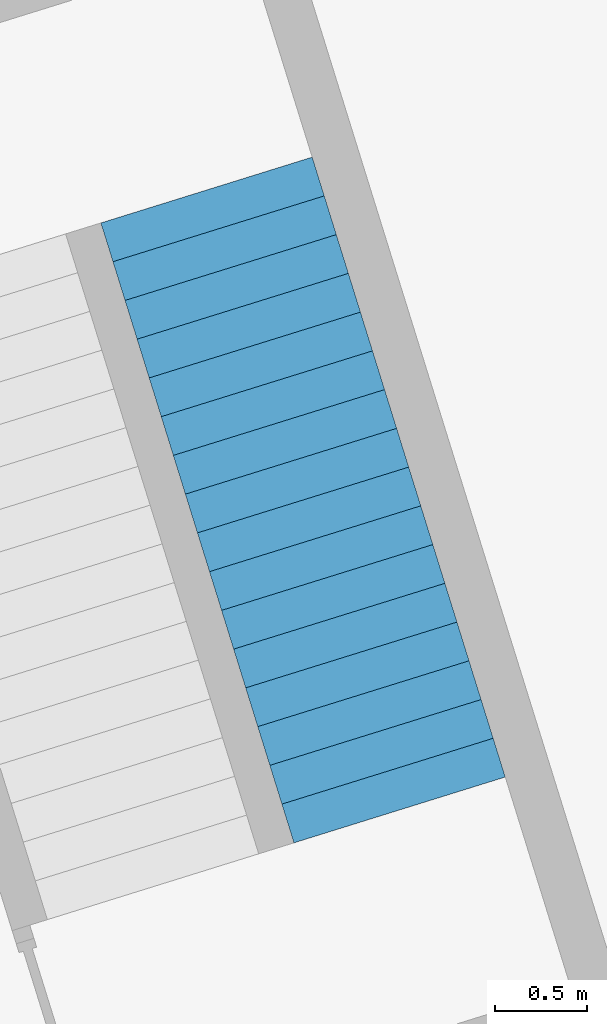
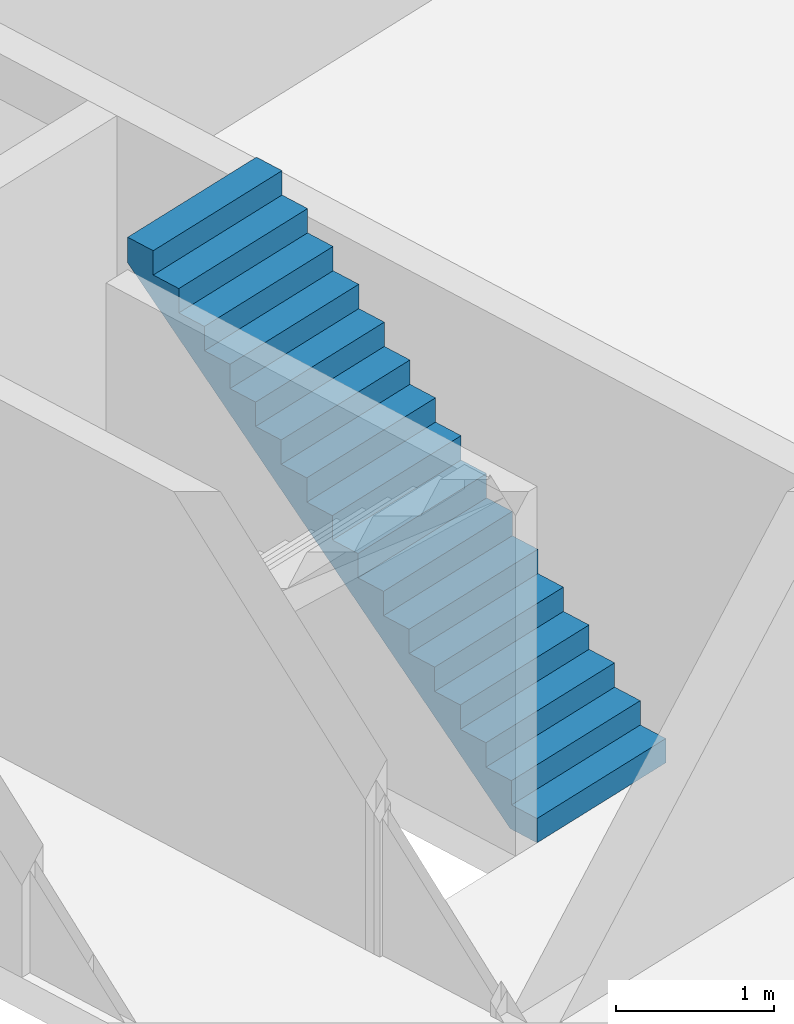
# One storey, part 4 of 4: 1 stair flight, 1 element without a shape of its own.
"""IFC4 building model written with IfcOpenShell, lengths in metres."""

import ifcopenshell
import ifcopenshell.guid

model = None  # the IFC model being written
_history = None  # IfcOwnerHistory: only IFC2X3 demands one
_inside = {}  # id of a spatial element -> (the spatial element, [elements in it])
_under = {}  # id of a project, library or spatial element -> (it, [spatial elements below it])
_declared = {}  # id of a project -> (the project, [libraries it declares])
_typed = {}  # id of a type object -> (the type object, [elements of that type])
_made_of = {}  # id of a material, layer set ... -> (it, [elements and type objects made of it])


def new_model(schema):
    """Start an empty IFC model of exactly this schema.

    Asked for "IFC4X3", IfcOpenShell would pick the latest addendum, in which some entities
    have other attributes; the version numbers below select the first issue.
    IFC2X3 requires an IfcOwnerHistory on every rooted entity: one is made here for all.
    """
    global model, _history
    if schema == "IFC4X3":
        model = ifcopenshell.file(schema_version=(4, 3, 0, 0))
    else:
        model = ifcopenshell.file(schema=schema)
    _inside.clear()
    _under.clear()
    _declared.clear()
    _typed.clear()
    _made_of.clear()
    _history = None
    if model.schema == "IFC2X3":
        org = make("IfcOrganization", Name="unknown")
        user = make(
            "IfcPersonAndOrganization",
            ThePerson=make("IfcPerson", FamilyName="unknown"),
            TheOrganization=org,
        )
        app = make(
            "IfcApplication",
            ApplicationDeveloper=org,
            Version="unknown",
            ApplicationFullName="unknown",
            ApplicationIdentifier="unknown",
        )
        _history = make(
            "IfcOwnerHistory",
            OwningUser=user,
            OwningApplication=app,
            ChangeAction="ADDED",
            CreationDate=0,
        )
    return model


def make(cls, **values):
    """One entity of the class cls with the attributes given. An attribute that is None is left unset."""
    return model.create_entity(
        cls, **{name: value for name, value in values.items() if value is not None}
    )


def entity(cls, *values):
    """Any entity or typed value of the class cls, its attributes in the order of the schema. None: left unset."""
    e = model.create_entity(cls)
    for i, value in enumerate(values):
        if value is not None:
            e[i] = value
    return e


def rooted(cls, **values):
    """An entity with a GlobalId (a new one), such as an element, a storey or a relation."""
    return make(cls, GlobalId=ifcopenshell.guid.new(), OwnerHistory=_history, **values)


def si_unit(unit_type, name, prefix=None):
    """IfcSIUnit, for example si_unit("LENGTHUNIT", "METRE", prefix="MILLI")."""
    return make("IfcSIUnit", UnitType=unit_type, Prefix=prefix, Name=name)


def converted_unit(unit_type, name, factor, base, dimensions=None, offset=None):
    """IfcConversionBasedUnit, such as the inch: factor (a typed value) times the base unit."""
    return make(
        "IfcConversionBasedUnit"
        if offset is None
        else "IfcConversionBasedUnitWithOffset",
        ConversionOffset=offset,
        Dimensions=None
        if dimensions is None
        else entity("IfcDimensionalExponents", *dimensions),
        UnitType=unit_type,
        Name=name,
        ConversionFactor=make(
            "IfcMeasureWithUnit", ValueComponent=factor, UnitComponent=base
        ),
    )


def assignment(units):
    """IfcUnitAssignment: the units of a project."""
    return None if units is None else make("IfcUnitAssignment", Units=units)


def point(xyz):
    """IfcCartesianPoint."""
    return None if xyz is None else make("IfcCartesianPoint", Coordinates=xyz)


def direction(xyz):
    """IfcDirection."""
    return None if xyz is None else make("IfcDirection", DirectionRatios=xyz)


def frame(location, z_axis=None, x_axis=None):
    """IfcAxis2Placement3D, a coordinate frame: its origin and axes. An axis left out is left unset."""
    return make(
        "IfcAxis2Placement3D",
        Location=point(location),
        Axis=direction(z_axis),
        RefDirection=direction(x_axis),
    )


def origin():
    """The frame at (0, 0, 0) with its axes left unset."""
    return frame((0.0, 0.0, 0.0))


def place(relative_to, where):
    """IfcLocalPlacement: puts the frame where relative to a parent placement (None: the world)."""
    return make(
        "IfcLocalPlacement", PlacementRelTo=relative_to, RelativePlacement=where
    )


def context(
    kind, dimensions, precision=None, world=None, true_north=None, identifier=None
):
    """IfcGeometricRepresentationContext, for example the 3D "Model" context."""
    return make(
        "IfcGeometricRepresentationContext",
        ContextIdentifier=identifier,
        ContextType=kind,
        CoordinateSpaceDimension=dimensions,
        Precision=precision,
        WorldCoordinateSystem=world,
        TrueNorth=true_north,
    )


def subcontext(parent, identifier, kind, view, scale=None):
    """IfcGeometricRepresentationSubContext, for example "Body" below "Model"."""
    return make(
        "IfcGeometricRepresentationSubContext",
        ContextIdentifier=identifier,
        ContextType=kind,
        ParentContext=parent,
        TargetScale=scale,
        TargetView=view,
    )


def project(units=None, contexts=None):
    """IfcProject with its units and contexts."""
    return rooted(
        "IfcProject",
        Name="project",
        RepresentationContexts=contexts,
        UnitsInContext=assignment(units),
    )


def spatial(cls, under=None, at=None, **own):
    """A site, building, storey or space (cls), placed at a placement, below another one or the project."""
    s = rooted(cls, ObjectPlacement=at, **own)
    if under is not None:
        _under.setdefault(under.id(), (under, []))[1].append(s)
    return s


def point_list(points):
    """IfcCartesianPointList2D or 3D."""
    cls = (
        "IfcCartesianPointList2D" if len(points[0]) == 2 else "IfcCartesianPointList3D"
    )
    return make(cls, CoordList=points)


def polygons(points, faces, closed=None, point_numbers=None):
    """IfcPolygonalFaceSet: a face is its outer loop, then its inner loops; points numbered from 1."""
    made = []
    for loops in faces:
        if len(loops) == 1:
            made.append(make("IfcIndexedPolygonalFace", CoordIndex=loops[0]))
        else:
            made.append(
                make(
                    "IfcIndexedPolygonalFaceWithVoids",
                    CoordIndex=loops[0],
                    InnerCoordIndices=loops[1:],
                )
            )
    return make(
        "IfcPolygonalFaceSet",
        Coordinates=point_list(points),
        Closed=closed,
        Faces=made,
        PnIndex=point_numbers,
    )


def shape(context_of_items, identifier, shape_type, items):
    """IfcShapeRepresentation: the items that make up one representation, for example the "Body"."""
    return make(
        "IfcShapeRepresentation",
        ContextOfItems=context_of_items,
        RepresentationIdentifier=identifier,
        RepresentationType=shape_type,
        Items=items,
    )


def material(Name=None, Category=None):
    """IfcMaterial."""
    return make("IfcMaterial", Name=Name, Category=Category)


def made_of(thing, what):
    """Note that an element or type object is made of a material, layer set ...; save() writes the relation."""
    if what is not None:
        _made_of.setdefault(what.id(), (what, []))[1].append(thing)
    return thing


def type_object(cls, material=None, **own):
    """A type object (cls), such as IfcWallType, which elements share."""
    return made_of(rooted(cls, **own), material)


def element(
    cls,
    number,
    at=None,
    inside=None,
    cuts=None,
    type_object=None,
    material=None,
    context=None,
    identifier="Body",
    shape_type=None,
    held_by="IfcProductDefinitionShape",
    body=None,
    shapes=None,
    **own,
):
    """One element of the class cls, such as IfcWall. Its Tag is "e" and its number.

    at: its placement. inside: the storey or other place that contains it. cuts: it is an
    opening in that element (IfcRelVoidsElement). A single representation is given by context,
    identifier, shape_type and body (its items); several are given by shapes. held_by: the class
    of the entity that holds the representations. save() writes the other relations.
    """
    e = rooted(cls, Tag="e%d" % number, ObjectPlacement=at, **own)
    if body is not None:
        shapes = [shape(context, identifier, shape_type, body)]
    if shapes is not None:
        e.Representation = make(held_by, Representations=shapes)
    if inside is not None:
        _inside.setdefault(inside.id(), (inside, []))[1].append(e)
    if cuts is not None:
        rooted(
            "IfcRelVoidsElement", RelatingBuildingElement=cuts, RelatedOpeningElement=e
        )
    if type_object is not None:
        _typed.setdefault(type_object.id(), (type_object, []))[1].append(e)
    return made_of(e, material)


def aggregate(whole, parts):
    """IfcRelAggregates: a whole, such as a stair, and the parts it consists of."""
    return rooted("IfcRelAggregates", RelatingObject=whole, RelatedObjects=parts)


def save(model, path):
    """Write the relations noted so far, then the file.

    IfcRelAggregates (storeys below a building ...), IfcRelContainedInSpatialStructure (elements
    in a storey), IfcRelDefinesByType, IfcRelAssociatesMaterial and IfcRelDeclares: one each for
    every whole, place, type object, material and project.
    """
    for whole, parts in _under.values():
        aggregate(whole, parts)
    for where, things in _inside.values():
        rooted(
            "IfcRelContainedInSpatialStructure",
            RelatedElements=things,
            RelatingStructure=where,
        )
    for kind, things in _typed.values():
        rooted("IfcRelDefinesByType", RelatedObjects=things, RelatingType=kind)
    for what, things in _made_of.values():
        rooted("IfcRelAssociatesMaterial", RelatedObjects=things, RelatingMaterial=what)
    for by, libraries in _declared.values():
        rooted("IfcRelDeclares", RelatingContext=by, RelatedDefinitions=libraries)
    model.write(path)


model = new_model("IFC4")

# Units and contexts
model_context = context("Model", 3, precision=1e-05, world=origin(), true_north=direction((6.12323399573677e-17, 1.0)))
body_context = subcontext(model_context, "Body", "Model", "MODEL_VIEW")
ifc_project = project(units=[si_unit("LENGTHUNIT", "METRE"), si_unit("AREAUNIT", "SQUARE_METRE"), si_unit("VOLUMEUNIT", "CUBIC_METRE"), converted_unit("PLANEANGLEUNIT", "DEGREE", entity("IfcPlaneAngleMeasure", 0.0174532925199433), si_unit("PLANEANGLEUNIT", "RADIAN"), dimensions=[0, 0, 0, 0, 0, 0, 0])], contexts=[model_context])

# Site, building, storey
site_placement = place(None, frame((13.1347999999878, 11.9886000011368, 0.0), z_axis=(0.0, 0.0, 1.0), x_axis=(0.954770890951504, 0.297342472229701, 0.0)))
site = spatial("IfcSite", under=ifc_project, at=site_placement, Name="Schiehaven", CompositionType="ELEMENT")
building_placement = place(site_placement, origin())
building = spatial("IfcBuilding", under=site, at=building_placement, Name="VORM huis", CompositionType="ELEMENT")
storey_placement = place(building_placement, frame((0.0, 0.0, 21.9)))
storey = spatial("IfcBuildingStorey", under=building, at=storey_placement, Name="07 zevende verdieping", CompositionType="ELEMENT", Elevation=21.9)

# Stair, stair flight
stair_type = type_object("IfcStairType", Name="Trap", PredefinedType="STRAIGHT_RUN_STAIR")
stair_placement = place(storey_placement, origin())
stair = element("IfcStair", 1, at=stair_placement, inside=storey, type_object=stair_type, Name="Hoofdtrap", ObjectType="Trap", PredefinedType="STRAIGHT_RUN_STAIR")
ifc_material = material(Name="beton_gewapend_prefab-element", Category="Miscellaneous")
stair_flight_type = type_object("IfcStairFlightType", Name="Monolithic Run:NLRS_24_STRR_trap-beton prefab-monolithisch-recht_gen_rsf", PredefinedType="STRAIGHT")
stair_flight_placement = place(stair_placement, frame((18.6750000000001, 15.29, 0.0)))
stair_flight = element("IfcStairFlight", 2, at=stair_flight_placement, type_object=stair_flight_type, material=ifc_material, Name="Hoofdtrap Run 1", ObjectType="Monolithic Run:NLRS_24_STRR_trap-beton prefab-monolithisch-recht_gen_rsf", PredefinedType="STRAIGHT", context=body_context, shape_type="Tessellation", body=[
    polygons([(3.5527136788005e-15, 0.219999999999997, 0.1875), (0.0, -1.77635683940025e-15, 0.1875), (1.2, -1.77635683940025e-15, 0.1875), (1.2, 0.219999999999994, 0.1875), (3.5527136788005e-15, 0.220000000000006, 0.0), (0.0, -1.77635683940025e-15, 0.0), (1.2, -1.77635683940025e-15, 0.0), (1.2, 0.219999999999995, 0.0), (3.5527136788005e-15, 0.44, 0.375000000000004), (0.0, 0.219999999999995, 0.375000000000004), (1.2, 0.219999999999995, 0.375000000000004), (1.2, 0.439999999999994, 0.375000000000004), (3.5527136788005e-15, 0.44, 0.177912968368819), (3.5527136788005e-15, 0.231248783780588, 0.0), (1.2, 0.231248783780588, 0.0), (1.2, 0.439999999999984, 0.177912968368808), (3.5527136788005e-15, 0.659999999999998, 0.562500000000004), (3.5527136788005e-15, 0.44, 0.562500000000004), (1.20000000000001, 0.44, 0.562500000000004), (1.20000000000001, 0.659999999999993, 0.562500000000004), (7.105427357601e-15, 0.660000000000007, 0.365412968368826), (1.20000000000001, 0.659999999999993, 0.365412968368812), (3.5527136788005e-15, 0.880000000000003, 0.75), (3.5527136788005e-15, 0.659999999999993, 0.75), (1.20000000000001, 0.659999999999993, 0.75), (1.20000000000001, 0.879999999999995, 0.75), (7.105427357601e-15, 0.880000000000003, 0.552912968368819), (1.20000000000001, 0.879999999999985, 0.552912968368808), (7.105427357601e-15, 1.1, 0.9375), (7.105427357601e-15, 0.880000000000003, 0.9375), (1.20000000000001, 0.880000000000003, 0.9375), (1.20000000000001, 1.09999999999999, 0.9375), (7.105427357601e-15, 1.10000000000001, 0.74041296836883), (1.20000000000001, 1.09999999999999, 0.740412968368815), (7.105427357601e-15, 1.32, 1.125), (7.105427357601e-15, 1.09999999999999, 1.125), (1.20000000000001, 1.09999999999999, 1.125), (1.20000000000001, 1.31999999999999, 1.125), (7.105427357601e-15, 1.32, 0.927912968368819), (1.20000000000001, 1.31999999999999, 0.927912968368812), (1.06581410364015e-14, 1.54, 1.3125), (7.105427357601e-15, 1.32, 1.3125), (1.20000000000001, 1.32, 1.3125), (1.20000000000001, 1.54, 1.3125), (1.06581410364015e-14, 1.54000000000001, 1.11541296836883), (1.20000000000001, 1.54, 1.11541296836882), (1.06581410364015e-14, 1.76, 1.5), (7.105427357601e-15, 1.54, 1.5), (1.20000000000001, 1.54, 1.5), (1.20000000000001, 1.75999999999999, 1.5), (1.06581410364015e-14, 1.75999999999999, 1.30291296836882), (1.20000000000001, 1.75999999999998, 1.30291296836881), (1.06581410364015e-14, 1.98, 1.6875), (1.06581410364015e-14, 1.76, 1.6875), (1.20000000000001, 1.76, 1.6875), (1.20000000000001, 1.97999999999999, 1.6875), (1.06581410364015e-14, 1.98000000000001, 1.49041296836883), (1.20000000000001, 1.97999999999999, 1.49041296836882), (1.06581410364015e-14, 2.2, 1.875), (1.06581410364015e-14, 1.97999999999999, 1.875), (1.20000000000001, 1.97999999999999, 1.875), (1.20000000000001, 2.19999999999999, 1.875), (1.06581410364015e-14, 2.2, 1.67791296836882), (1.20000000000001, 2.19999999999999, 1.67791296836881), (1.4210854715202e-14, 2.42, 2.0625), (1.06581410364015e-14, 2.2, 2.0625), (1.20000000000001, 2.2, 2.0625), (1.20000000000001, 2.41999999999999, 2.0625), (1.06581410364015e-14, 2.42000000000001, 1.86541296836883), (1.20000000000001, 2.42, 1.86541296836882), (1.4210854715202e-14, 2.64, 2.25), (1.06581410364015e-14, 2.41999999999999, 2.25), (1.20000000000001, 2.41999999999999, 2.25), (1.20000000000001, 2.63999999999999, 2.25), (1.06581410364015e-14, 2.64, 2.05291296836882), (1.20000000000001, 2.63999999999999, 2.05291296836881), (1.4210854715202e-14, 2.86, 2.4375), (1.06581410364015e-14, 2.64, 2.4375), (1.20000000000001, 2.64, 2.4375), (1.20000000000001, 2.85999999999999, 2.4375), (1.4210854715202e-14, 2.86000000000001, 2.24041296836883), (1.20000000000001, 2.85999999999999, 2.24041296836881), (1.4210854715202e-14, 3.08, 2.625), (1.06581410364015e-14, 2.85999999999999, 2.625), (1.20000000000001, 2.85999999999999, 2.625), (1.20000000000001, 3.07999999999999, 2.625), (1.4210854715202e-14, 3.08, 2.42791296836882), (1.20000000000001, 3.07999999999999, 2.42791296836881), (1.77635683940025e-14, 3.3, 2.8125), (1.4210854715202e-14, 3.08, 2.8125), (1.20000000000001, 3.08, 2.8125), (1.20000000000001, 3.29999999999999, 2.8125), (1.77635683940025e-14, 3.30000000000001, 2.61541296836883), (1.20000000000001, 3.29999999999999, 2.61541296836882), (1.77635683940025e-14, 3.52, 3.0), (1.4210854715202e-14, 3.29999999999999, 3.0), (1.20000000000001, 3.29999999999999, 3.0), (1.20000000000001, 3.51999999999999, 3.0), (1.4210854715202e-14, 3.52, 2.80291296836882), (1.20000000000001, 3.51999999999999, 2.80291296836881)], [[[1, 2, 3, 4]], [[2, 1, 5, 6]], [[3, 2, 6, 7]], [[4, 3, 7, 8]], [[9, 10, 11, 12]], [[5, 1, 10, 9, 13, 14]], [[1, 4, 11, 10]], [[4, 8, 15, 16, 12, 11]], [[17, 18, 19, 20]], [[18, 17, 21, 13, 9]], [[9, 12, 19, 18]], [[20, 19, 12, 16, 22]], [[23, 24, 25, 26]], [[24, 23, 27, 21, 17]], [[17, 20, 25, 24]], [[26, 25, 20, 22, 28]], [[29, 30, 31, 32]], [[30, 29, 33, 27, 23]], [[23, 26, 31, 30]], [[32, 31, 26, 28, 34]], [[35, 36, 37, 38]], [[36, 35, 39, 33, 29]], [[29, 32, 37, 36]], [[38, 37, 32, 34, 40]], [[41, 42, 43, 44]], [[42, 41, 45, 39, 35]], [[35, 38, 43, 42]], [[44, 43, 38, 40, 46]], [[47, 48, 49, 50]], [[48, 47, 51, 45, 41]], [[41, 44, 49, 48]], [[50, 49, 44, 46, 52]], [[53, 54, 55, 56]], [[54, 53, 57, 51, 47]], [[47, 50, 55, 54]], [[56, 55, 50, 52, 58]], [[59, 60, 61, 62]], [[60, 59, 63, 57, 53]], [[53, 56, 61, 60]], [[62, 61, 56, 58, 64]], [[65, 66, 67, 68]], [[66, 65, 69, 63, 59]], [[59, 62, 67, 66]], [[68, 67, 62, 64, 70]], [[71, 72, 73, 74]], [[72, 71, 75, 69, 65]], [[65, 68, 73, 72]], [[74, 73, 68, 70, 76]], [[77, 78, 79, 80]], [[78, 77, 81, 75, 71]], [[71, 74, 79, 78]], [[80, 79, 74, 76, 82]], [[83, 84, 85, 86]], [[84, 83, 87, 81, 77]], [[77, 80, 85, 84]], [[86, 85, 80, 82, 88]], [[89, 90, 91, 92]], [[90, 89, 93, 87, 83]], [[83, 86, 91, 90]], [[92, 91, 86, 88, 94]], [[95, 96, 97, 98]], [[96, 95, 99, 93, 89]], [[89, 92, 97, 96]], [[98, 97, 92, 94, 100]], [[95, 98, 100, 99]], [[6, 5, 14, 15, 8, 7]], [[15, 14, 13, 21, 27, 33, 39, 45, 51, 57, 63, 69, 75, 81, 87, 93, 99, 100, 94, 88, 82, 76, 70, 64, 58, 52, 46, 40, 34, 28, 22, 16]]], closed=True),
])
aggregate(stair, [stair_flight])

save(model, "model.ifc")
